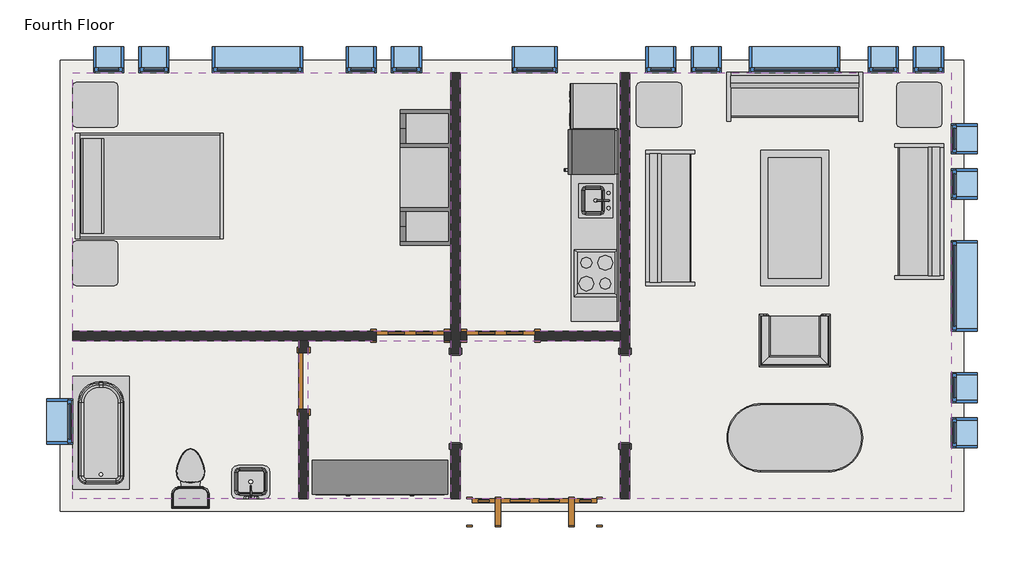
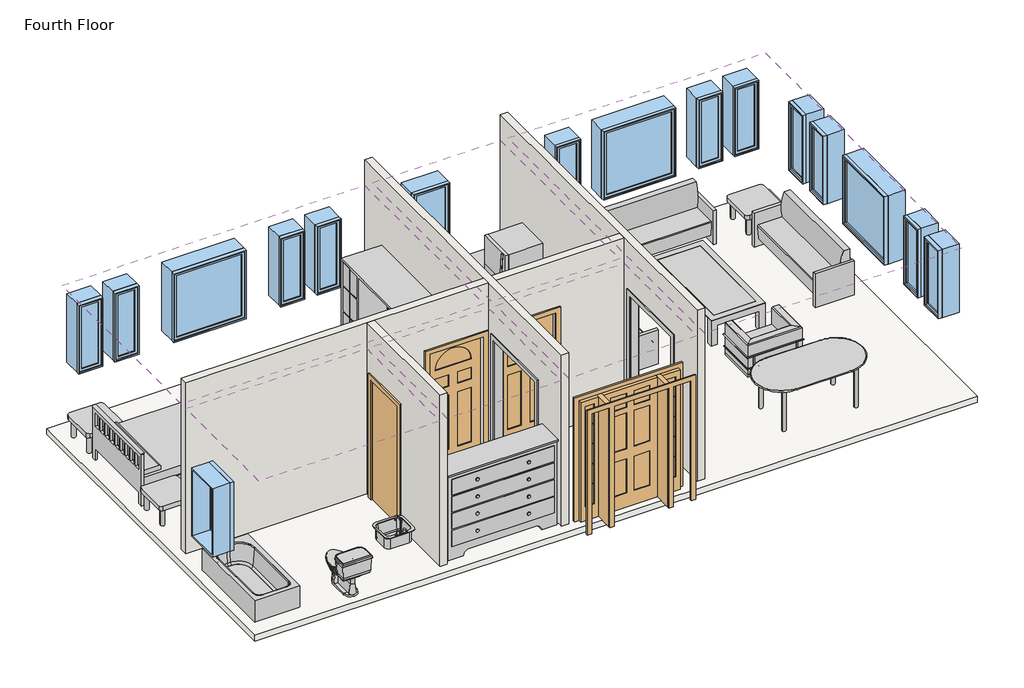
# One storey: 17 windows, 14 furniture elements, 6 coverings, 6 proxies, 5 walls, 4 doors, 4 flow terminals, 1 slab.
"""IFC4 building model written with IfcOpenShell, lengths in millimetres."""

from ifc_helpers import new_model, si_unit, frame, origin, place, context, project, spatial, polyline, outline, extrude, faceted_brep, transform, mapped, element, save
from components import proxy_dfcd9396, proxy_3c49123c, proxy_7a545507, proxy_f44482cc, proxy_ec3341c2, door_829da954, door_2e3b4da2, door_4d6c7550, door_dba5aa2e, flow_terminal_41332a36, flow_terminal_62a433f7, toilet_domestic_3d_toilet_domestic_3d_f7549cf7, toilet_domestic_3d_toilet_domestic_3d_183bbd19, tub_rectangular_3d_tub_rectangular_3d_15036965, furniture_096e7f55, chair_corbu_chair_corbu_2764bdef, furniture_6db689a5, furniture_7c473f12, furniture_cf0b6580, furniture_a4ffab56, furniture_cd93a443, furniture_2c34a4f9, furniture_3a588284, window_da97879f, window_d61ef850, window_60baf983, window_6eb97611

model = new_model("IFC4")

# Units and contexts
model_context = context("Model", 3, world=origin())
ifc_project = project(units=[si_unit("LENGTHUNIT", "METRE", prefix="MILLI")], contexts=[model_context])

# Site, building, storey
site = spatial("IfcSite", under=ifc_project)
building = spatial("IfcBuilding", under=site)
storey = spatial("IfcBuildingStorey", under=building, Name="Fourth Floor", Elevation=9144.0)

# Proxies
placement = place(None, origin())
proxy_shape = proxy_dfcd9396(model_context)
element("IfcBuildingElementProxy", 1, Name="Cook Top-4 Unit2 : 22\" x 20\"", ObjectType="Cook Top-4 Unit2 : 22\" x 20\"", at=placement, inside=storey, context=model_context, shape_type="MappedRepresentation", body=[
    mapped(proxy_shape, transform((-4167.1589563, 7568.5224391, 9144.0), x_axis=(0.0, 1.0000000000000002, 0.0), y_axis=(-1.0000000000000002, 0.0, 0.0), z_axis=(0.0, 0.0, 1.0))),
])
proxy_2_shape = proxy_3c49123c(model_context)
element("IfcBuildingElementProxy", 2, Name="Dishwasher : 24\" x 24\" x 34\"", ObjectType="Dishwasher : 24\" x 24\" x 34\"", at=placement, inside=storey, context=model_context, shape_type="MappedRepresentation", body=[
    mapped(proxy_2_shape, transform((-4459.0085211, 9434.1049706, 9144.0), x_axis=(0.0, 1.0000000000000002, 0.0), y_axis=(-1.0000000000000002, 0.0, 0.0), z_axis=(0.0, 0.0, 1.0))),
])
proxy_3_shape = proxy_7a545507(model_context)
element("IfcBuildingElementProxy", 3, Name="Kitchenette - Medium : 8'6\"", ObjectType="Kitchenette - Medium : 8'6\"", at=placement, inside=storey, context=model_context, shape_type="MappedRepresentation", body=[
    mapped(proxy_3_shape, transform((-3862.3589563, 8197.4847342, 9144.0), x_axis=(0.0, 1.0000000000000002, 0.0), y_axis=(-1.0000000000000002, 0.0, 0.0), z_axis=(0.0, 0.0, 1.0))),
])
proxy_4_shape = proxy_f44482cc(model_context)
element("IfcBuildingElementProxy", 4, Name="Opening-Cased : 48\" x 84\"", ObjectType="Opening-Cased : 48\" x 84\"", at=placement, inside=storey, context=model_context, shape_type="MappedRepresentation", body=[
    mapped(proxy_4_shape, transform((-3773.4589563, 5882.4203434, 9144.0), x_axis=(0.0, 1.0, 0.0), y_axis=(-1.0, 0.0, 0.0), z_axis=(0.0, 0.0, 1.0))),
])
element("IfcBuildingElementProxy", 5, Name="Opening-Cased : 48\" x 84\"", ObjectType="Opening-Cased : 48\" x 84\"", at=placement, inside=storey, context=model_context, shape_type="MappedRepresentation", body=[
    mapped(proxy_4_shape, transform((-6059.4589563, 5866.04303, 9144.0), x_axis=(0.0, -1.0, 0.0), y_axis=(1.0, 0.0, 0.0), z_axis=(0.0, 0.0, 1.0))),
])
proxy_5_shape = proxy_ec3341c2(model_context)
element("IfcBuildingElementProxy", 6, Name="Refrigerator : 24\" x 25\" LH", ObjectType="Refrigerator : 24\" x 25\" LH", at=placement, inside=storey, context=model_context, shape_type="MappedRepresentation", body=[
    mapped(proxy_5_shape, transform((-4212.8079278, 9200.4724391, 9144.0), x_axis=(0.0, 1.0000000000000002, 0.0), y_axis=(-1.0000000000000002, 0.0, 0.0), z_axis=(0.0, 0.0, 1.0))),
])

# Coverings
element("IfcCovering", 7, ObjectType="GWB on Mtl. Stud", at=placement, inside=storey, context=model_context, shape_type="SweptSolid", body=[
    extrude(outline(polyline([(-11217.2464563, 10270.0191867), (-6122.9589563, 10270.0191867), (-6122.9589563, 6787.0441867), (-11217.2464563, 6787.0441867), (-11217.2464563, 10270.0191867)])), frame((0.0, 0.0, 11734.8), z_axis=(0.0, 0.0, 1.0), x_axis=(1.0, 0.0, 0.0)), (0.0, 0.0, 1.0), 107.95),
])
element("IfcCovering", 8, ObjectType="GWB on Mtl. Stud", at=placement, inside=storey, context=model_context, shape_type="SweptSolid", body=[
    extrude(outline(polyline([(-5995.9589563, 6787.0441867), (-5995.9589563, 10270.0191867), (-3836.9589563, 10270.0191867), (-3836.9589563, 6787.0441867), (-5995.9589563, 6787.0441867)])), frame((0.0, 0.0, 11734.8), z_axis=(0.0, 0.0, 1.0), x_axis=(1.0, 0.0, 0.0)), (0.0, 0.0, 1.0), 107.95),
])
element("IfcCovering", 9, ObjectType="GWB on Mtl. Stud", at=placement, inside=storey, context=model_context, shape_type="SweptSolid", body=[
    extrude(outline(polyline([(-3709.9589563, 4526.4441867), (-3709.9589563, 10270.0191867), (622.3285437, 10270.0191867), (622.3285437, 4526.4441867), (-3709.9589563, 4526.4441867)])), frame((0.0, 0.0, 11734.8), z_axis=(0.0, 0.0, 1.0), x_axis=(1.0, 0.0, 0.0)), (0.0, 0.0, 1.0), 107.95),
])
element("IfcCovering", 10, ObjectType="GWB on Mtl. Stud", at=placement, inside=storey, context=model_context, shape_type="SweptSolid", body=[
    extrude(outline(polyline([(-3836.9589563, 4526.4441867), (-5995.9589563, 4526.4441867), (-5995.9589563, 6660.0441867), (-3836.9589563, 6660.0441867), (-3836.9589563, 4526.4441867)])), frame((0.0, 0.0, 11734.8), z_axis=(0.0, 0.0, 1.0), x_axis=(1.0, 0.0, 0.0)), (0.0, 0.0, 1.0), 107.95),
])
element("IfcCovering", 11, ObjectType="GWB on Mtl. Stud", at=placement, inside=storey, context=model_context, shape_type="SweptSolid", body=[
    extrude(outline(polyline([(-8169.2464563, 6660.0441867), (-8169.2464563, 4526.4441867), (-11217.2464563, 4526.4441867), (-11217.2464563, 6660.0441867), (-8169.2464563, 6660.0441867)])), frame((0.0, 0.0, 11734.8), z_axis=(0.0, 0.0, 1.0), x_axis=(1.0, 0.0, 0.0)), (0.0, 0.0, 1.0), 107.95),
])
element("IfcCovering", 12, ObjectType="GWB on Mtl. Stud", at=placement, inside=storey, context=model_context, shape_type="SweptSolid", body=[
    extrude(outline(polyline([(-6122.9589563, 4526.4441867), (-8042.2464563, 4526.4441867), (-8042.2464563, 6660.0441867), (-6122.9589563, 6660.0441867), (-6122.9589563, 4526.4441867)])), frame((0.0, 0.0, 11734.8), z_axis=(0.0, 0.0, 1.0), x_axis=(1.0, 0.0, 0.0)), (0.0, 0.0, 1.0), 107.95),
])

# Doors
door_shape = door_829da954(model_context)
element("IfcDoor", 13, ObjectType="Single-Decorative 2 : 36\" x 84\"", at=placement, inside=storey, context=model_context, shape_type="MappedRepresentation", body=[
    mapped(door_shape, transform((-5449.8589563, 6723.5441867, 9144.0), x_axis=(-1.0, 0.0, 0.0), y_axis=(0.0, -1.0, 0.0), z_axis=(0.0, 0.0, 1.0))),
])
door_2_shape = door_2e3b4da2(model_context)
element("IfcDoor", 14, ObjectType="Single-Decorative 2 : 36\" x 84\"", at=placement, inside=storey, context=model_context, shape_type="MappedRepresentation", body=[
    mapped(door_2_shape, transform((-6669.0589563, 6723.5441867, 9144.0), x_axis=(1.0, 0.0, 0.0), y_axis=(0.0, 1.0, 0.0), z_axis=(0.0, 0.0, 1.0))),
])
door_3_shape = door_4d6c7550(model_context)
element("IfcDoor", 15, ObjectType="Single-Flush : 30\" x 84\"", at=placement, inside=storey, context=model_context, shape_type="MappedRepresentation", body=[
    mapped(door_3_shape, transform((-8105.7464563, 6113.9441867, 9144.0), x_axis=(0.0, 1.0, 0.0), y_axis=(-1.0, 0.0, 0.0), z_axis=(0.0, 0.0, 1.0))),
])
door_4_shape = door_dba5aa2e(model_context)
element("IfcDoor", 16, ObjectType="Single-Raised Panel with Sidelights : 36\" x 84\"", at=placement, inside=storey, context=model_context, shape_type="MappedRepresentation", body=[
    mapped(door_4_shape, transform((-4992.6589563, 4350.2316867, 9144.0), x_axis=(-1.0, 0.0, 0.0), y_axis=(0.0, -1.0, 0.0), z_axis=(0.0, 0.0, 1.0))),
])

# Flow terminals
flow_terminal_shape = flow_terminal_41332a36(model_context)
element("IfcFlowTerminal", 17, ObjectType="Sink Kitchen-Island : 18\" x 18\"", at=placement, inside=storey, context=model_context, shape_type="MappedRepresentation", body=[
    mapped(flow_terminal_shape, transform((-4169.5043574, 8530.7331986, 9129.6), x_axis=(0.0, 1.0000000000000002, 0.0), y_axis=(-1.0000000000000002, 0.0, 0.0), z_axis=(0.0, 0.0, 1.0))),
])
flow_terminal_2_shape = flow_terminal_62a433f7(model_context)
element("IfcFlowTerminal", 18, ObjectType="Sink Vanity-Square : 20\" x 18\"", at=placement, inside=storey, context=model_context, shape_type="MappedRepresentation", body=[
    mapped(flow_terminal_2_shape, transform((-8801.2572158, 4706.5895878, 9144.0), x_axis=(-1.0, 0.0, 0.0), y_axis=(0.0, -1.0, 0.0), z_axis=(0.0, 0.0, 1.0))),
])
toilet_domestic_3d_toilet_domestic_3d_shape = toilet_domestic_3d_toilet_domestic_3d_f7549cf7(model_context)
toilet_domestic_3d_toilet_domestic_3d_2_shape = toilet_domestic_3d_toilet_domestic_3d_183bbd19(model_context)
element("IfcFlowTerminal", 19, ObjectType="Toilet-Domestic-3D : Toilet-Domestic-3D", at=placement, inside=storey, context=model_context, shape_type="MappedRepresentation", body=[
    mapped(toilet_domestic_3d_toilet_domestic_3d_shape, transform((-9629.7464563, 4894.7441867, 9144.0), x_axis=(-1.0, 0.0, 0.0), y_axis=(0.0, -1.0, 0.0), z_axis=(0.0, 0.0, 1.0))),
    mapped(toilet_domestic_3d_toilet_domestic_3d_2_shape, transform((-9629.7464563, 4894.7441867, 9144.0), x_axis=(-1.0, 0.0, 0.0), y_axis=(0.0, -1.0, 0.0), z_axis=(0.0, 0.0, 1.0))),
])
tub_rectangular_3d_tub_rectangular_3d_shape = tub_rectangular_3d_tub_rectangular_3d_15036965(model_context)
element("IfcFlowTerminal", 20, ObjectType="Tub-Rectangular-3D : Tub-Rectangular-3D", at=placement, inside=storey, context=model_context, shape_type="MappedRepresentation", body=[
    mapped(tub_rectangular_3d_tub_rectangular_3d_shape, transform((-11393.4589563, 5765.6346554, 9144.0), x_axis=(0.0, 1.0, 0.0), y_axis=(-1.0, 0.0, 0.0), z_axis=(0.0, 0.0, 1.0))),
])

# Furniture
furniture_shape = furniture_096e7f55(model_context)
element("IfcFurniture", 21, ObjectType="Bed-Shaker : Double 56\" x 78\"", at=placement, inside=storey, context=model_context, shape_type="MappedRepresentation", body=[
    mapped(furniture_shape, transform((-11172.0857802, 8763.4816867, 9144.0), x_axis=(0.0, 1.0, 0.0), y_axis=(-1.0, 0.0, 0.0), z_axis=(0.0, 0.0, 1.0))),
])
chair_corbu_chair_corbu_shape = chair_corbu_chair_corbu_2764bdef(model_context)
element("IfcFurniture", 22, ObjectType="Chair-Corbu : Chair-Corbu", at=placement, inside=storey, context=model_context, shape_type="MappedRepresentation", body=[
    mapped(chair_corbu_chair_corbu_shape, transform((-914.0851858, 7126.8212359, 9144.0), x_axis=(-1.0, 0.0, 0.0), y_axis=(0.0, -1.0, 0.0), z_axis=(0.0, 0.0, 1.0))),
])
furniture_2_shape = furniture_6db689a5(model_context)
element("IfcFurniture", 23, ObjectType="Counter Top w Sink Hole : 24\" Depth", at=placement, inside=storey, context=model_context, shape_type="MappedRepresentation", body=[
    mapped(furniture_2_shape, transform((-3862.3589563, 8121.2847342, 9129.6), x_axis=(0.0, 1.0000000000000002, 0.0), y_axis=(-1.0000000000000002, 0.0, 0.0), z_axis=(0.0, 0.0, 1.0))),
])
furniture_3_shape = furniture_7c473f12(model_context)
element("IfcFurniture", 24, ObjectType="Dresser : 72\" x 60\" x 18\"", at=placement, inside=storey, context=model_context, shape_type="MappedRepresentation", body=[
    mapped(furniture_3_shape, transform((-6806.2656965, 5181.7071408, 9144.0), x_axis=(1.0, 0.0, 0.0), y_axis=(0.0, 1.0, 0.0), z_axis=(0.0, 0.0, 1.0))),
])
furniture_4_shape = furniture_cf0b6580(model_context)
element("IfcFurniture", 25, ObjectType="Entertainment Center : 72\" x 72\" x 24\"", at=placement, inside=storey, context=model_context, shape_type="MappedRepresentation", body=[
    mapped(furniture_4_shape, transform((-6021.3589563, 8857.1441867, 9144.0), x_axis=(0.0, -1.0, 0.0), y_axis=(1.0, 0.0, 0.0), z_axis=(0.0, 0.0, 1.0))),
])
furniture_5_shape = furniture_a4ffab56(model_context)
element("IfcFurniture", 26, ObjectType="Sofa : 72\"", at=placement, inside=storey, context=model_context, shape_type="MappedRepresentation", body=[
    mapped(furniture_5_shape, transform((-3017.704858, 8242.2611949, 9144.0), x_axis=(0.0, 1.0, 0.0), y_axis=(-1.0, 0.0, 0.0), z_axis=(0.0, 0.0, 1.0))),
])
element("IfcFurniture", 27, ObjectType="Sofa : 72\"", at=placement, inside=storey, context=model_context, shape_type="MappedRepresentation", body=[
    mapped(furniture_5_shape, transform((-1557.8294481, 9801.5748071, 9144.0), x_axis=(1.0, 0.0, 0.0), y_axis=(0.0, 1.0, 0.0), z_axis=(0.0, 0.0, 1.0))),
])
element("IfcFurniture", 28, ObjectType="Sofa : 72\"", at=placement, inside=storey, context=model_context, shape_type="MappedRepresentation", body=[
    mapped(furniture_5_shape, transform((42.7869453, 8470.3146785, 9144.0), x_axis=(0.0, -1.0, 0.0), y_axis=(1.0, 0.0, 0.0), z_axis=(0.0, 0.0, 1.0))),
])
furniture_6_shape = furniture_cd93a443(model_context)
element("IfcFurniture", 29, ObjectType="Table-Coffee : 36\" x 72\" x 18\"", at=placement, inside=storey, context=model_context, shape_type="MappedRepresentation", body=[
    mapped(furniture_6_shape, transform((-1392.2478785, 8294.36592, 9144.0), x_axis=(0.0, 1.0, 0.0), y_axis=(-1.0, 0.0, 0.0), z_axis=(0.0, 0.0, 1.0))),
])
furniture_7_shape = furniture_2c34a4f9(model_context)
element("IfcFurniture", 30, ObjectType="Table-Dining Oval : 36\" x 72\"", at=placement, inside=storey, context=model_context, shape_type="MappedRepresentation", body=[
    mapped(furniture_7_shape, transform((-1085.6392842, 5710.0425473, 9144.0), x_axis=(1.0, 0.0, 0.0), y_axis=(0.0, 1.0, 0.0), z_axis=(0.0, 0.0, 1.0))),
])
furniture_8_shape = furniture_3a588284(model_context)
element("IfcFurniture", 31, ObjectType="Table-End : 24\" x 24\"", at=placement, inside=storey, context=model_context, shape_type="MappedRepresentation", body=[
    mapped(furniture_8_shape, transform((-119.5925866, 9684.2316867, 9144.0), x_axis=(1.0, 0.0, 0.0), y_axis=(0.0, 1.0, 0.0), z_axis=(0.0, 0.0, 1.0))),
])
element("IfcFurniture", 32, ObjectType="Table-End : 24\" x 24\"", at=placement, inside=storey, context=model_context, shape_type="MappedRepresentation", body=[
    mapped(furniture_8_shape, transform((-11220.9800866, 7550.6316867, 9144.0), x_axis=(1.0, 0.0, 0.0), y_axis=(0.0, 1.0, 0.0), z_axis=(0.0, 0.0, 1.0))),
])
element("IfcFurniture", 33, ObjectType="Table-End : 24\" x 24\"", at=placement, inside=storey, context=model_context, shape_type="MappedRepresentation", body=[
    mapped(furniture_8_shape, transform((-11220.9800866, 9684.2316867, 9144.0), x_axis=(1.0, 0.0, 0.0), y_axis=(0.0, 1.0, 0.0), z_axis=(0.0, 0.0, 1.0))),
])
element("IfcFurniture", 34, ObjectType="Table-End : 24\" x 24\"", at=placement, inside=storey, context=model_context, shape_type="MappedRepresentation", body=[
    mapped(furniture_8_shape, transform((-3624.7925866, 9684.2316867, 9144.0), x_axis=(1.0, 0.0, 0.0), y_axis=(0.0, 1.0, 0.0), z_axis=(0.0, 0.0, 1.0))),
])

# Slab
element("IfcSlab", 35, ObjectType="LW Concrete on Metal Deck", at=placement, inside=storey, context=model_context, shape_type="SweptSolid", body=[
    extrude(outline(polyline([(787.4285437, 10435.1191867), (787.4285437, 4361.3441867), (-11382.3464563, 4361.3441867), (-11382.3464563, 10435.1191867), (787.4285437, 10435.1191867)])), frame((0.0, 0.0, 9039.225), z_axis=(0.0, 0.0, 1.0), x_axis=(1.0, 0.0, 0.0)), (0.0, 0.0, 1.0), 104.775),
])

# Walls
element("IfcWall", 36, ObjectType="Interior - 5\" Partition (2-hr)", at=placement, inside=storey, context=model_context, shape_type="Brep", body=[
    faceted_brep([(-3709.9589563, 10270.0191867, 9144.0), (-3709.9589563, 6483.8316867, 9144.0), (-3836.9589563, 6483.8316867, 9144.0), (-3836.9589563, 6660.0441867, 9144.0), (-3836.9589563, 6787.0441867, 9144.0), (-3836.9589563, 10270.0191867, 9144.0), (-3709.9589563, 5264.6316867, 9144.0), (-3709.9589563, 4526.4441867, 9144.0), (-3836.9589563, 4526.4441867, 9144.0), (-3836.9589563, 5264.6316867, 9144.0), (-3836.9589563, 10270.0191867, 12192.0), (-3836.9589563, 6787.0441867, 12192.0), (-3836.9589563, 6660.0441867, 12192.0), (-3836.9589563, 4526.4441867, 12192.0), (-3709.9589563, 4526.4441867, 12192.0), (-3709.9589563, 10270.0191867, 12192.0), (-3836.9589563, 6483.8316867, 11277.6), (-3836.9589563, 5264.6316867, 11277.6), (-3709.9589563, 6483.8316867, 11277.6), (-3709.9589563, 5264.6316867, 11277.6)], [[[0, 1, 2, 3, 4, 5]], [[6, 7, 8, 9]], [[10, 11, 12, 13, 14, 15]], [[5, 4, 3, 2, 16, 17, 9, 8, 13, 12, 11, 10]], [[18, 1, 0, 15, 14, 7, 6, 19]], [[5, 10, 15, 0]], [[13, 8, 7, 14]], [[9, 17, 19, 6]], [[16, 2, 1, 18]], [[17, 16, 18, 19]]]),
])
element("IfcWall", 37, ObjectType="Interior - 5\" Partition (2-hr)", at=placement, inside=storey, context=model_context, shape_type="Brep", body=[
    faceted_brep([(-6122.9589563, 4526.4441867, 9144.0), (-6122.9589563, 5264.6316867, 9144.0), (-5995.9589563, 5264.6316867, 9144.0), (-5995.9589563, 4526.4441867, 9144.0), (-6122.9589563, 6483.8316867, 9144.0), (-6122.9589563, 6660.0441867, 9144.0), (-6122.9589563, 6787.0441867, 9144.0), (-6122.9589563, 10270.0191867, 9144.0), (-5995.9589563, 10270.0191867, 9144.0), (-5995.9589563, 6787.0441867, 9144.0), (-5995.9589563, 6660.0441867, 9144.0), (-5995.9589563, 6483.8316867, 9144.0), (-6122.9589563, 10270.0191867, 12192.0), (-6122.9589563, 6787.0441867, 12192.0), (-6122.9589563, 6660.0441867, 12192.0), (-6122.9589563, 4526.4441867, 12192.0), (-5995.9589563, 4526.4441867, 12192.0), (-5995.9589563, 6660.0441867, 12192.0), (-5995.9589563, 6787.0441867, 12192.0), (-5995.9589563, 10270.0191867, 12192.0), (-6122.9589563, 5264.6316867, 11277.6), (-6122.9589563, 6483.8316867, 11277.6), (-5995.9589563, 5264.6316867, 11277.6), (-5995.9589563, 6483.8316867, 11277.6)], [[[0, 1, 2, 3]], [[4, 5, 6, 7, 8, 9, 10, 11]], [[12, 13, 14, 15, 16, 17, 18, 19]], [[20, 1, 0, 15, 14, 13, 12, 7, 6, 5, 4, 21]], [[3, 2, 22, 23, 11, 10, 9, 8, 19, 18, 17, 16]], [[7, 12, 19, 8]], [[15, 0, 3, 16]], [[11, 23, 21, 4]], [[22, 2, 1, 20]], [[23, 22, 20, 21]]]),
])
element("IfcWall", 38, ObjectType="Interior - 5\" Partition (2-hr)", at=placement, inside=storey, context=model_context, shape_type="Brep", body=[
    faceted_brep([(-6122.9589563, 6660.0441867, 9144.0), (-6211.8589563, 6660.0441867, 9144.0), (-6211.8589563, 6787.0441867, 9144.0), (-6122.9589563, 6787.0441867, 9144.0), (-7126.2589563, 6660.0441867, 9144.0), (-8042.2464563, 6660.0441867, 9144.0), (-8169.2464563, 6660.0441867, 9144.0), (-11217.2464563, 6660.0441867, 9144.0), (-11217.2464563, 6787.0441867, 9144.0), (-7126.2589563, 6787.0441867, 9144.0), (-11217.2464563, 6660.0441867, 12192.0), (-8169.2464563, 6660.0441867, 12192.0), (-8042.2464563, 6660.0441867, 12192.0), (-6122.9589563, 6660.0441867, 12192.0), (-6122.9589563, 6787.0441867, 12192.0), (-11217.2464563, 6787.0441867, 12192.0), (-6211.8589563, 6660.0441867, 11277.6), (-7126.2589563, 6660.0441867, 11277.6), (-6211.8589563, 6787.0441867, 11277.6), (-7126.2589563, 6787.0441867, 11277.6)], [[[0, 1, 2, 3]], [[4, 5, 6, 7, 8, 9]], [[10, 11, 12, 13, 14, 15]], [[16, 1, 0, 13, 12, 11, 10, 7, 6, 5, 4, 17]], [[3, 2, 18, 19, 9, 8, 15, 14]], [[13, 0, 3, 14]], [[7, 10, 15, 8]], [[18, 2, 1, 16]], [[19, 18, 16, 17]], [[9, 19, 17, 4]]]),
])
element("IfcWall", 39, ObjectType="Interior - 5\" Partition (2-hr)", at=placement, inside=storey, context=model_context, shape_type="SweptSolid", body=[
    extrude(outline(polyline([(6660.0441867, 9144.0), (6494.9441867, 9144.0), (6494.9441867, 11277.6), (5732.9441867, 11277.6), (5732.9441867, 9144.0), (4526.4441867, 9144.0), (4526.4441867, 12192.0), (6660.0441867, 12192.0), (6660.0441867, 9144.0)])), frame((-8169.2464563, 0.0, 0.0), z_axis=(1.0, 0.0, 0.0), x_axis=(0.0, 1.0, 0.0)), (0.0, 0.0, 1.0), 127.0),
])
element("IfcWall", 40, ObjectType="Interior - 5\" Partition (2-hr)", at=placement, inside=storey, context=model_context, shape_type="SweptSolid", body=[
    extrude(outline(polyline([(9144.0, -5995.9589563), (9144.0, -5907.0589563), (11277.6, -5907.0589563), (11277.6, -4992.6589563), (9144.0, -4992.6589563), (9144.0, -3836.9589563), (12192.0, -3836.9589563), (12192.0, -5995.9589563), (9144.0, -5995.9589563)])), frame((0.0, 6660.0441867, 0.0), z_axis=(0.0, 1.0, 0.0), x_axis=(0.0, 0.0, 1.0)), (0.0, 0.0, 1.0), 127.0),
])

# Windows
window_shape = window_da97879f(model_context)
element("IfcWindow", 41, ObjectType="Fixed : 16\" x 48\"", at=placement, inside=storey, context=model_context, shape_type="MappedRepresentation", body=[
    mapped(window_shape, transform((-10771.1589563, 10446.2316867, 9144.0), x_axis=(-1.0, 0.0, 0.0), y_axis=(0.0, -1.0, 0.0), z_axis=(0.0, 0.0, 1.0))),
])
element("IfcWindow", 42, ObjectType="Fixed : 16\" x 48\"", at=placement, inside=storey, context=model_context, shape_type="MappedRepresentation", body=[
    mapped(window_shape, transform((-10161.5589563, 10446.2316867, 9144.0), x_axis=(-1.0, 0.0, 0.0), y_axis=(0.0, -1.0, 0.0), z_axis=(0.0, 0.0, 1.0))),
])
element("IfcWindow", 43, ObjectType="Fixed : 16\" x 48\"", at=placement, inside=storey, context=model_context, shape_type="MappedRepresentation", body=[
    mapped(window_shape, transform((-3328.9589563, 10446.2316867, 9144.0), x_axis=(-1.0, 0.0, 0.0), y_axis=(0.0, -1.0, 0.0), z_axis=(0.0, 0.0, 1.0))),
])
element("IfcWindow", 44, ObjectType="Fixed : 16\" x 48\"", at=placement, inside=storey, context=model_context, shape_type="MappedRepresentation", body=[
    mapped(window_shape, transform((-2719.3589563, 10446.2316867, 9144.0), x_axis=(-1.0, 0.0, 0.0), y_axis=(0.0, -1.0, 0.0), z_axis=(0.0, 0.0, 1.0))),
])
element("IfcWindow", 45, ObjectType="Fixed : 16\" x 48\"", at=placement, inside=storey, context=model_context, shape_type="MappedRepresentation", body=[
    mapped(window_shape, transform((798.5410437, 9417.5316867, 9144.0), x_axis=(0.0, 1.0, 0.0), y_axis=(-1.0, 0.0, 0.0), z_axis=(0.0, 0.0, 1.0))),
])
element("IfcWindow", 46, ObjectType="Fixed : 16\" x 48\"", at=placement, inside=storey, context=model_context, shape_type="MappedRepresentation", body=[
    mapped(window_shape, transform((798.5410437, 8807.9316867, 9144.0), x_axis=(0.0, 1.0, 0.0), y_axis=(-1.0, 0.0, 0.0), z_axis=(0.0, 0.0, 1.0))),
])
window_2_shape = window_d61ef850(model_context)
element("IfcWindow", 47, ObjectType="Fixed : 16\" x 48\"", at=placement, inside=storey, context=model_context, shape_type="MappedRepresentation", body=[
    mapped(window_2_shape, transform((-6681.7589563, 10446.2316867, 9144.0), x_axis=(1.0, 0.0, 0.0), y_axis=(0.0, 1.0, 0.0), z_axis=(0.0, 0.0, 1.0))),
])
element("IfcWindow", 48, ObjectType="Fixed : 16\" x 48\"", at=placement, inside=storey, context=model_context, shape_type="MappedRepresentation", body=[
    mapped(window_2_shape, transform((-7291.3589563, 10446.2316867, 9144.0), x_axis=(1.0, 0.0, 0.0), y_axis=(0.0, 1.0, 0.0), z_axis=(0.0, 0.0, 1.0))),
])
element("IfcWindow", 49, ObjectType="Fixed : 16\" x 48\"", at=placement, inside=storey, context=model_context, shape_type="MappedRepresentation", body=[
    mapped(window_2_shape, transform((354.0410437, 10446.2316867, 9144.0), x_axis=(1.0, 0.0, 0.0), y_axis=(0.0, 1.0, 0.0), z_axis=(0.0, 0.0, 1.0))),
])
element("IfcWindow", 50, ObjectType="Fixed : 16\" x 48\"", at=placement, inside=storey, context=model_context, shape_type="MappedRepresentation", body=[
    mapped(window_2_shape, transform((-255.5589563, 10446.2316867, 9144.0), x_axis=(1.0, 0.0, 0.0), y_axis=(0.0, 1.0, 0.0), z_axis=(0.0, 0.0, 1.0))),
])
element("IfcWindow", 51, ObjectType="Fixed : 16\" x 48\"", at=placement, inside=storey, context=model_context, shape_type="MappedRepresentation", body=[
    mapped(window_2_shape, transform((798.5410437, 5378.9316867, 9144.0), x_axis=(0.0, -1.0, 0.0), y_axis=(1.0, 0.0, 0.0), z_axis=(0.0, 0.0, 1.0))),
])
element("IfcWindow", 52, ObjectType="Fixed : 16\" x 48\"", at=placement, inside=storey, context=model_context, shape_type="MappedRepresentation", body=[
    mapped(window_2_shape, transform((798.5410437, 5988.5316867, 9144.0), x_axis=(0.0, -1.0, 0.0), y_axis=(1.0, 0.0, 0.0), z_axis=(0.0, 0.0, 1.0))),
])
window_3_shape = window_60baf983(model_context)
element("IfcWindow", 53, ObjectType="Fixed : 24\" x 48\"", at=placement, inside=storey, context=model_context, shape_type="MappedRepresentation", body=[
    mapped(window_3_shape, transform((-5030.7589563, 10446.2316867, 9144.0), x_axis=(-1.0, 0.0, 0.0), y_axis=(0.0, -1.0, 0.0), z_axis=(0.0, 0.0, 1.0))),
])
element("IfcWindow", 54, ObjectType="Fixed : 24\" x 48\"", at=placement, inside=storey, context=model_context, shape_type="MappedRepresentation", body=[
    mapped(window_3_shape, transform((-11393.4589563, 5531.3316867, 9144.0), x_axis=(0.0, -1.0, 0.0), y_axis=(1.0, 0.0, 0.0), z_axis=(0.0, 0.0, 1.0))),
])
window_4_shape = window_6eb97611(model_context)
element("IfcWindow", 55, ObjectType="Fixed : 48\" x 48\"", at=placement, inside=storey, context=model_context, shape_type="MappedRepresentation", body=[
    mapped(window_4_shape, transform((-8764.5589563, 10446.2316867, 9144.0), x_axis=(-1.0, 0.0, 0.0), y_axis=(0.0, -1.0, 0.0), z_axis=(0.0, 0.0, 1.0))),
])
element("IfcWindow", 56, ObjectType="Fixed : 48\" x 48\"", at=placement, inside=storey, context=model_context, shape_type="MappedRepresentation", body=[
    mapped(window_4_shape, transform((-1525.5589563, 10446.2316867, 9144.0), x_axis=(-1.0, 0.0, 0.0), y_axis=(0.0, -1.0, 0.0), z_axis=(0.0, 0.0, 1.0))),
])
element("IfcWindow", 57, ObjectType="Fixed : 48\" x 48\"", at=placement, inside=storey, context=model_context, shape_type="MappedRepresentation", body=[
    mapped(window_4_shape, transform((798.5410437, 7436.3316867, 9144.0), x_axis=(0.0, 1.0, 0.0), y_axis=(-1.0, 0.0, 0.0), z_axis=(0.0, 0.0, 1.0))),
])

save(model, "model.ifc")
